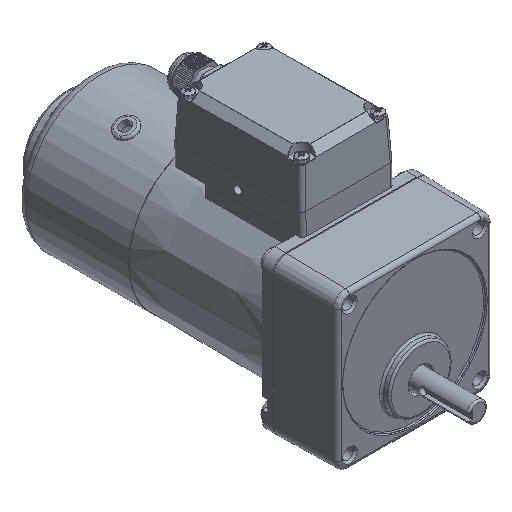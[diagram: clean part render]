
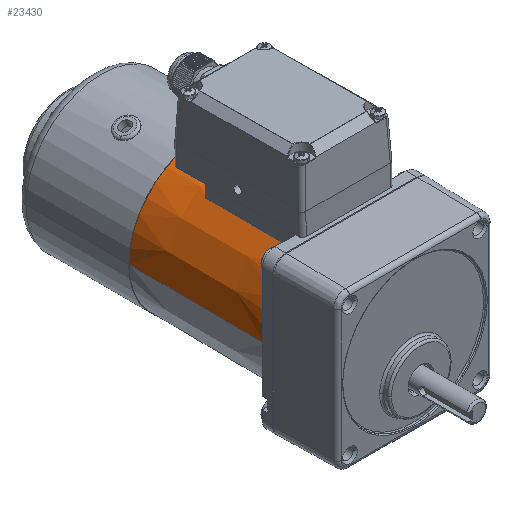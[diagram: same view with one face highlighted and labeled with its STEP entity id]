
A CAD part, isometric view. The second image highlights one B-rep face of the part: STEP entity #23430.
In plain terms, the highlighted conical face has half-angle 0.47 degrees and reference radius 38.662 mm.
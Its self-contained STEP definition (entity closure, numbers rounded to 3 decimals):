
#32 = LINE ( 'NONE', #7183, #239 ) ;
#239 = VECTOR ( 'NONE', #15429, 1000. ) ;
#1824 = CARTESIAN_POINT ( 'NONE',  ( -21.863, 15.667, 32.076 ) ) ;
#2859 = ORIENTED_EDGE ( 'NONE', *, *, #44145, .T. ) ;
#3832 = CARTESIAN_POINT ( 'NONE',  ( 21.863, 15.667, 32.076 ) ) ;
#4628 = EDGE_CURVE ( 'NONE', #10615, #12806, #32, .T. ) ;
#5335 = DIRECTION ( 'NONE',  ( 0., 1., 0. ) ) ;
#5877 = ORIENTED_EDGE ( 'NONE', *, *, #6901, .F. ) ;
#6901 = EDGE_CURVE ( 'NONE', #25986, #13891, #36791, .T. ) ;
#7183 = CARTESIAN_POINT ( 'NONE',  ( 38.947, 0., 0. ) ) ;
#8778 = ORIENTED_EDGE ( 'NONE', *, *, #30897, .T. ) ;
#8855 = CARTESIAN_POINT ( 'NONE',  ( 0., 0., 0. ) ) ;
#9595 = CARTESIAN_POINT ( 'NONE',  ( 0., 34.75, 0. ) ) ;
#10119 = DIRECTION ( 'NONE',  ( 0.565, 0., 0.825 ) ) ;
#10615 = VERTEX_POINT ( 'NONE', #44851 ) ;
#12064 = CARTESIAN_POINT ( 'NONE',  ( 21.727, 31.333, 32.013 ) ) ;
#12158 = DIRECTION ( 'NONE',  ( -1., 0., 0. ) ) ;
#12741 = EDGE_CURVE ( 'NONE', #25986, #10615, #43640, .T. ) ;
#12806 = VERTEX_POINT ( 'NONE', #15433 ) ;
#13767 = CARTESIAN_POINT ( 'NONE',  ( -38.377, 69.5, 0. ) ) ;
#13891 = VERTEX_POINT ( 'NONE', #50114 ) ;
#14542 = CARTESIAN_POINT ( 'NONE',  ( -21.59, 47., 31.951 ) ) ;
#15311 = AXIS2_PLACEMENT_3D ( 'NONE', #32906, #5335, #16500 ) ;
#15429 = DIRECTION ( 'NONE',  ( -0.008, 1., 0. ) ) ;
#15433 = CARTESIAN_POINT ( 'NONE',  ( 38.377, 69.5, 0. ) ) ;
#15788 = VECTOR ( 'NONE', #35059, 1000. ) ;
#16500 = DIRECTION ( 'NONE',  ( -0.56, 0., 0.829 ) ) ;
#16885 = CARTESIAN_POINT ( 'NONE',  ( 0., 69.5, 0. ) ) ;
#17252 = EDGE_LOOP ( 'NONE', ( #5877, #19723, #18130, #48136, #23642, #42247, #2859, #8778 ) ) ;
#17288 = DIRECTION ( 'NONE',  ( -1., 0., 0. ) ) ;
#17448 = CONICAL_SURFACE ( 'NONE', #25917, 38.662, 0.008 ) ;
#17482 = VERTEX_POINT ( 'NONE', #23181 ) ;
#17971 = CARTESIAN_POINT ( 'NONE',  ( -21.727, 31.333, 32.013 ) ) ;
#18130 = ORIENTED_EDGE ( 'NONE', *, *, #4628, .T. ) ;
#18901 = LINE ( 'NONE', #27618, #15788 ) ;
#19535 = CIRCLE ( 'NONE', #15311, 38.561 ) ;
#19723 = ORIENTED_EDGE ( 'NONE', *, *, #12741, .T. ) ;
#21172 = AXIS2_PLACEMENT_3D ( 'NONE', #8855, #37216, #49417 ) ;
#21700 = CARTESIAN_POINT ( 'NONE',  ( -22., 0., 32.138 ) ) ;
#23181 = CARTESIAN_POINT ( 'NONE',  ( -21.59, 47., 31.951 ) ) ;
#23430 = ADVANCED_FACE ( 'NONE', ( #37438 ), #17448, .T. ) ;
#23642 = ORIENTED_EDGE ( 'NONE', *, *, #45201, .F. ) ;
#23880 = B_SPLINE_CURVE_WITH_KNOTS ( 'NONE', 3,
 ( #21700, #1824, #17971, #14542 ),
 .UNSPECIFIED., .F., .F.,
 ( 4, 4 ),
 ( 0., 1. ),
 .UNSPECIFIED. ) ;
#25917 = AXIS2_PLACEMENT_3D ( 'NONE', #9595, #42198, #17288 ) ;
#25986 = VERTEX_POINT ( 'NONE', #37980 ) ;
#26129 = AXIS2_PLACEMENT_3D ( 'NONE', #16885, #45002, #12158 ) ;
#27618 = CARTESIAN_POINT ( 'NONE',  ( -38.947, 0., 0. ) ) ;
#28037 = EDGE_CURVE ( 'NONE', #44241, #31724, #44022, .T. ) ;
#29430 = EDGE_CURVE ( 'NONE', #32931, #12806, #35455, .T. ) ;
#29465 = CARTESIAN_POINT ( 'NONE',  ( 0., 0., 0. ) ) ;
#30897 = EDGE_CURVE ( 'NONE', #17482, #13891, #19535, .T. ) ;
#31724 = VERTEX_POINT ( 'NONE', #52103 ) ;
#32906 = CARTESIAN_POINT ( 'NONE',  ( 0., 47., 0. ) ) ;
#32931 = VERTEX_POINT ( 'NONE', #13767 ) ;
#35059 = DIRECTION ( 'NONE',  ( 0.008, 1., 0. ) ) ;
#35455 = CIRCLE ( 'NONE', #26129, 38.377 ) ;
#35716 = CARTESIAN_POINT ( 'NONE',  ( -38.947, 0., 0. ) ) ;
#36791 = B_SPLINE_CURVE_WITH_KNOTS ( 'NONE', 3,
 ( #40148, #3832, #12064, #44387 ),
 .UNSPECIFIED., .F., .F.,
 ( 4, 4 ),
 ( 0., 1. ),
 .UNSPECIFIED. ) ;
#37216 = DIRECTION ( 'NONE',  ( 0., 1., 0. ) ) ;
#37438 = FACE_OUTER_BOUND ( 'NONE', #17252, .T. ) ;
#37973 = DIRECTION ( 'NONE',  ( 0., 1., 0. ) ) ;
#37980 = CARTESIAN_POINT ( 'NONE',  ( 22., 0., 32.138 ) ) ;
#40148 = CARTESIAN_POINT ( 'NONE',  ( 22., 0., 32.138 ) ) ;
#42198 = DIRECTION ( 'NONE',  ( 0., -1., 0. ) ) ;
#42247 = ORIENTED_EDGE ( 'NONE', *, *, #28037, .T. ) ;
#43640 = CIRCLE ( 'NONE', #44491, 38.947 ) ;
#44022 = CIRCLE ( 'NONE', #21172, 38.947 ) ;
#44145 = EDGE_CURVE ( 'NONE', #31724, #17482, #23880, .T. ) ;
#44241 = VERTEX_POINT ( 'NONE', #35716 ) ;
#44387 = CARTESIAN_POINT ( 'NONE',  ( 21.59, 47., 31.951 ) ) ;
#44491 = AXIS2_PLACEMENT_3D ( 'NONE', #29465, #37973, #10119 ) ;
#44851 = CARTESIAN_POINT ( 'NONE',  ( 38.947, 0., 0. ) ) ;
#45002 = DIRECTION ( 'NONE',  ( 0., 1., 0. ) ) ;
#45201 = EDGE_CURVE ( 'NONE', #44241, #32931, #18901, .T. ) ;
#48136 = ORIENTED_EDGE ( 'NONE', *, *, #29430, .F. ) ;
#49417 = DIRECTION ( 'NONE',  ( -1., 0., 0. ) ) ;
#50114 = CARTESIAN_POINT ( 'NONE',  ( 21.59, 47., 31.951 ) ) ;
#52103 = CARTESIAN_POINT ( 'NONE',  ( -22., 0., 32.138 ) ) ;
